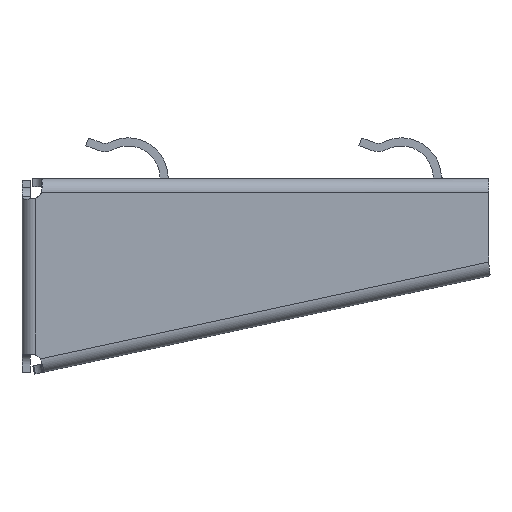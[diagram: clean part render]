
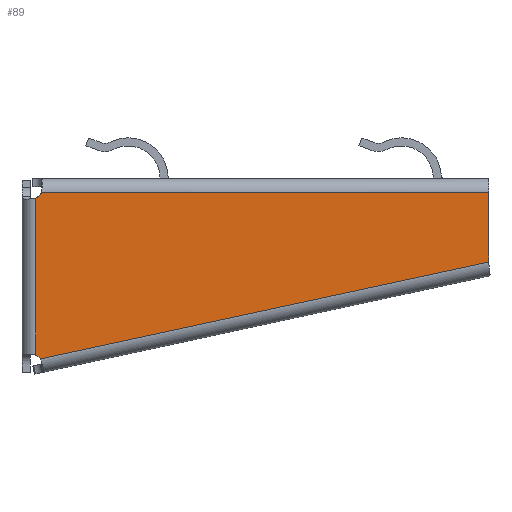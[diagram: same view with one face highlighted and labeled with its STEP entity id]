
A CAD part, left-side view. The second image highlights one B-rep face of the part: STEP entity #89.
In plain terms, the highlighted planar face has unit normal (-1, 0, 0).
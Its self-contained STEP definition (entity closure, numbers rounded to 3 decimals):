
#89=ADVANCED_FACE('',(#166),#1204,.T.);
#166=FACE_OUTER_BOUND('',#248,.T.);
#248=EDGE_LOOP('',(#504,#505,#506,#507,#508,#509,#510,#511,#512,#513));
#504=ORIENTED_EDGE('',*,*,#774,.T.);
#505=ORIENTED_EDGE('',*,*,#772,.F.);
#506=ORIENTED_EDGE('',*,*,#769,.F.);
#507=ORIENTED_EDGE('',*,*,#803,.F.);
#508=ORIENTED_EDGE('',*,*,#809,.F.);
#509=ORIENTED_EDGE('',*,*,#806,.F.);
#510=ORIENTED_EDGE('',*,*,#811,.F.);
#511=ORIENTED_EDGE('',*,*,#788,.F.);
#512=ORIENTED_EDGE('',*,*,#773,.T.);
#513=ORIENTED_EDGE('',*,*,#819,.F.);
#769=EDGE_CURVE('',#1123,#1124,#1025,.T.);
#772=EDGE_CURVE('',#1124,#1128,#1027,.T.);
#773=EDGE_CURVE('',#1125,#1126,#1028,.T.);
#774=EDGE_CURVE('',#1127,#1128,#912,.T.);
#788=EDGE_CURVE('',#1125,#1143,#919,.T.);
#803=EDGE_CURVE('',#1147,#1123,#934,.T.);
#806=EDGE_CURVE('',#1149,#1151,#937,.T.);
#809=EDGE_CURVE('',#1151,#1147,#940,.T.);
#811=EDGE_CURVE('',#1143,#1149,#942,.T.);
#819=EDGE_CURVE('',#1127,#1126,#947,.T.);
#912=(
BOUNDED_CURVE()
B_SPLINE_CURVE(1,(#2207,#2208),.UNSPECIFIED.,.F.,.F.)
B_SPLINE_CURVE_WITH_KNOTS((2,2),(0.,83.933),.UNSPECIFIED.)
CURVE()
GEOMETRIC_REPRESENTATION_ITEM()
RATIONAL_B_SPLINE_CURVE((1.,1.))
REPRESENTATION_ITEM('')
);
#919=(
BOUNDED_CURVE()
B_SPLINE_CURVE(2,(#2275,#2276,#2277),.UNSPECIFIED.,.F.,.F.)
B_SPLINE_CURVE_WITH_KNOTS((3,3),(323.061,323.525),
 .UNSPECIFIED.)
CURVE()
GEOMETRIC_REPRESENTATION_ITEM()
RATIONAL_B_SPLINE_CURVE((1.,0.994,1.))
REPRESENTATION_ITEM('')
);
#934=(
BOUNDED_CURVE()
B_SPLINE_CURVE(2,(#2314,#2315,#2316),.UNSPECIFIED.,.F.,.F.)
B_SPLINE_CURVE_WITH_KNOTS((3,3),(324.165,324.621),
 .UNSPECIFIED.)
CURVE()
GEOMETRIC_REPRESENTATION_ITEM()
RATIONAL_B_SPLINE_CURVE((1.,0.994,1.))
REPRESENTATION_ITEM('')
);
#937=(
BOUNDED_CURVE()
B_SPLINE_CURVE(2,(#2322,#2323,#2324),.UNSPECIFIED.,.F.,.F.)
B_SPLINE_CURVE_WITH_KNOTS((3,3),(323.529,324.157),
 .UNSPECIFIED.)
CURVE()
GEOMETRIC_REPRESENTATION_ITEM()
RATIONAL_B_SPLINE_CURVE((1.,0.988,1.))
REPRESENTATION_ITEM('')
);
#940=(
BOUNDED_CURVE()
B_SPLINE_CURVE(2,(#2330,#2331,#2332),.UNSPECIFIED.,.F.,.F.)
B_SPLINE_CURVE_WITH_KNOTS((3,3),(324.157,324.165),
 .UNSPECIFIED.)
CURVE()
GEOMETRIC_REPRESENTATION_ITEM()
RATIONAL_B_SPLINE_CURVE((1.,1.,1.))
REPRESENTATION_ITEM('')
);
#942=(
BOUNDED_CURVE()
B_SPLINE_CURVE(2,(#2336,#2337,#2338),.UNSPECIFIED.,.F.,.F.)
B_SPLINE_CURVE_WITH_KNOTS((3,3),(323.525,323.529),
 .UNSPECIFIED.)
CURVE()
GEOMETRIC_REPRESENTATION_ITEM()
RATIONAL_B_SPLINE_CURVE((1.,1.,1.))
REPRESENTATION_ITEM('')
);
#947=(
BOUNDED_CURVE()
B_SPLINE_CURVE(2,(#2360,#2361,#2362,#2363,#2364,#2365,#2366),
 .UNSPECIFIED.,.F.,.F.)
B_SPLINE_CURVE_WITH_KNOTS((3,2,2,3),(240.38,240.849,
241.057,241.515),.UNSPECIFIED.)
CURVE()
GEOMETRIC_REPRESENTATION_ITEM()
RATIONAL_B_SPLINE_CURVE((1.,0.994,1.,0.999,1.,0.994,
1.))
REPRESENTATION_ITEM('')
);
#1025=B_SPLINE_CURVE_WITH_KNOTS('',1,(#2188,#2189),.UNSPECIFIED.,.F.,.F.,
(2,2),(0.676,80.841),.UNSPECIFIED.);
#1027=B_SPLINE_CURVE_WITH_KNOTS('',1,(#2203,#2204),.UNSPECIFIED.,.F.,.F.,
(2,2),(450.729,463.466),.UNSPECIFIED.);
#1028=B_SPLINE_CURVE_WITH_KNOTS('',1,(#2205,#2206),.UNSPECIFIED.,.F.,.F.,
(2,2),(-35.225,-6.511),.UNSPECIFIED.);
#1123=VERTEX_POINT('',#2001);
#1124=VERTEX_POINT('',#2002);
#1125=VERTEX_POINT('',#2003);
#1126=VERTEX_POINT('',#2004);
#1127=VERTEX_POINT('',#2005);
#1128=VERTEX_POINT('',#2006);
#1143=VERTEX_POINT('',#2021);
#1147=VERTEX_POINT('',#2025);
#1149=VERTEX_POINT('',#2027);
#1151=VERTEX_POINT('',#2029);
#1204=PLANE('',#1341);
#1341=AXIS2_PLACEMENT_3D('',#1661,#1397,$);
#1397=DIRECTION('',(-1.,0.,0.));
#1661=CARTESIAN_POINT('',(-12.388,-84.933,20.426));
#2001=CARTESIAN_POINT('',(-12.388,-2.055,-1.611));
#2002=CARTESIAN_POINT('',(-12.388,-83.889,-1.611));
#2003=CARTESIAN_POINT('',(-12.388,-1.,-2.665));
#2004=CARTESIAN_POINT('',(-12.388,-1.,-31.379));
#2005=CARTESIAN_POINT('',(-12.388,-1.847,-32.063));
#2006=CARTESIAN_POINT('',(-12.388,-83.889,-14.348));
#2021=CARTESIAN_POINT('',(-12.388,-1.387,-2.447));
#2025=CARTESIAN_POINT('',(-12.388,-1.834,-2.));
#2027=CARTESIAN_POINT('',(-12.388,-1.389,-2.445));
#2029=CARTESIAN_POINT('',(-12.388,-1.83,-2.006));
#2188=CARTESIAN_POINT('',(-12.388,-2.055,-1.611));
#2189=CARTESIAN_POINT('',(-12.388,-83.889,-1.611));
#2203=CARTESIAN_POINT('',(-12.388,-83.889,-1.611));
#2204=CARTESIAN_POINT('',(-12.388,-83.889,-14.348));
#2205=CARTESIAN_POINT('',(-12.388,-1.,-2.665));
#2206=CARTESIAN_POINT('',(-12.388,-1.,-31.379));
#2207=CARTESIAN_POINT('',(-12.388,-1.847,-32.063));
#2208=CARTESIAN_POINT('',(-12.388,-83.889,-14.348));
#2275=CARTESIAN_POINT('',(-12.388,-1.,-2.665));
#2276=CARTESIAN_POINT('',(-12.388,-1.206,-2.578));
#2277=CARTESIAN_POINT('',(-12.388,-1.387,-2.447));
#2314=CARTESIAN_POINT('',(-12.388,-1.834,-2.));
#2315=CARTESIAN_POINT('',(-12.388,-1.966,-1.818));
#2316=CARTESIAN_POINT('',(-12.388,-2.055,-1.611));
#2322=CARTESIAN_POINT('',(-12.388,-1.389,-2.445));
#2323=CARTESIAN_POINT('',(-12.388,-1.644,-2.26));
#2324=CARTESIAN_POINT('',(-12.388,-1.83,-2.006));
#2330=CARTESIAN_POINT('',(-12.388,-1.83,-2.006));
#2331=CARTESIAN_POINT('',(-12.388,-1.832,-2.003));
#2332=CARTESIAN_POINT('',(-12.388,-1.834,-2.));
#2336=CARTESIAN_POINT('',(-12.388,-1.387,-2.447));
#2337=CARTESIAN_POINT('',(-12.388,-1.388,-2.446));
#2338=CARTESIAN_POINT('',(-12.388,-1.389,-2.445));
#2360=CARTESIAN_POINT('',(-12.388,-1.847,-32.063));
#2361=CARTESIAN_POINT('',(-12.388,-1.717,-31.88));
#2362=CARTESIAN_POINT('',(-12.388,-1.55,-31.729));
#2363=CARTESIAN_POINT('',(-12.388,-1.473,-31.66));
#2364=CARTESIAN_POINT('',(-12.388,-1.389,-31.6));
#2365=CARTESIAN_POINT('',(-12.388,-1.207,-31.468));
#2366=CARTESIAN_POINT('',(-12.388,-1.,-31.379));
